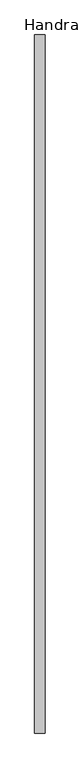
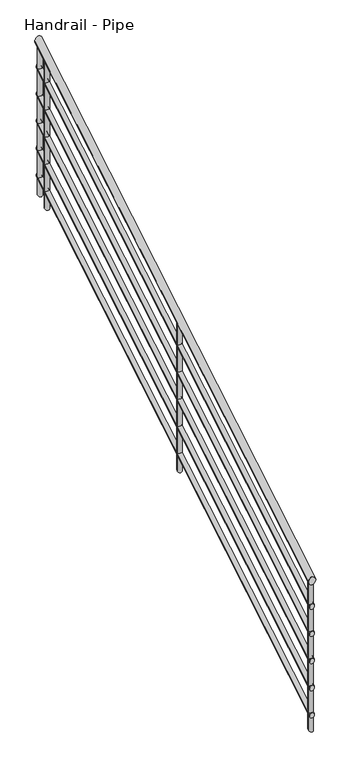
"""IFC4 building model written with IfcOpenShell, lengths in millimetres: railing geometry, Handrail - Pipe."""

from ifc_helpers import new_model, si_unit, frame, origin, place, context, project, spatial, ellipse_curve, source, transform, mapped, element, save
from ifc_brep_helpers import plane_surface, cylinder_surface, advanced_brep


def handrail_pipe_723eb138(model_context):
    return source(origin(), model_context, "Body", "AdvancedBrep", [
        advanced_brep(
        [(-6413.7286726, -8786.6671527, -464.1759267), (-6375.6286726, -8786.6671527, -464.1759267), (-6413.7286726, -6272.0671527, 1044.5840733), (-6375.6286726, -6272.0671527, 1044.5840733)],
        [
            (0, 1, ellipse_curve(frame((-6394.6786726, -8786.6671527, -464.1759267), z_axis=(0.0, -1.0, 0.0), x_axis=(0.0, 0.0, -1.0)), 22.2159267, 19.05)),
            (1, 0, ellipse_curve(frame((-6394.6786726, -8786.6671527, -464.1759267), z_axis=(0.0, -1.0, 0.0), x_axis=(0.0, 0.0, -1.0)), 22.2159267, 19.05)),
            (2, 3, ellipse_curve(frame((-6394.6786726, -6272.0671527, 1044.5840733), z_axis=(0.0, 1.0, 0.0), x_axis=(0.0, 0.0, -1.0)), 22.2159267, 19.05)),
            (3, 2, ellipse_curve(frame((-6394.6786726, -6272.0671527, 1044.5840733), z_axis=(0.0, 1.0, 0.0), x_axis=(0.0, 0.0, -1.0)), 22.2159267, 19.05)),
            (0, 2),
            (3, 1),
        ],
        [
            plane_surface(frame((-6394.6786726, -8786.6671527, -441.96), z_axis=(0.0, -1.0, 0.0), x_axis=(0.0, 0.0, 1.0))),
            plane_surface(frame((-6394.6786726, -6272.0671527, 1066.8), z_axis=(0.0, 1.0, 0.0), x_axis=(0.0, 0.0, 1.0))),
            cylinder_surface(frame((-6394.6786726, -8776.8660086, -458.2952402), z_axis=(0.0, -0.8574929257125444, -0.5144957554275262), x_axis=(1.0, 0.0, 0.0)), 19.05),
        ],
        [
            (0, [[1, 2]]),
            (1, [[3, 4]]),
            (2, [[-1, 5, -4, 6]]),
            (2, [[-2, -6, -3, -5]]),
        ],
    ),
        advanced_brep(
        [(-6407.3786726, -8786.6671527, -609.1706178), (-6381.9786726, -8786.6671527, -609.1706178), (-6407.3786726, -6272.0671527, 899.5893822), (-6381.9786726, -6272.0671527, 899.5893822)],
        [
            (0, 1, ellipse_curve(frame((-6394.6786726, -8786.6671527, -609.1706178), z_axis=(0.0, -1.0, 0.0), x_axis=(0.0, 0.0, -1.0)), 14.8106178, 12.7)),
            (1, 0, ellipse_curve(frame((-6394.6786726, -8786.6671527, -609.1706178), z_axis=(0.0, -1.0, 0.0), x_axis=(0.0, 0.0, -1.0)), 14.8106178, 12.7)),
            (2, 3, ellipse_curve(frame((-6394.6786726, -6272.0671527, 899.5893822), z_axis=(0.0, 1.0, 0.0), x_axis=(0.0, 0.0, -1.0)), 14.8106178, 12.7)),
            (3, 2, ellipse_curve(frame((-6394.6786726, -6272.0671527, 899.5893822), z_axis=(0.0, 1.0, 0.0), x_axis=(0.0, 0.0, -1.0)), 14.8106178, 12.7)),
            (0, 2),
            (3, 1),
        ],
        [
            plane_surface(frame((-6394.6786726, -8786.6671527, -594.36), z_axis=(0.0, -1.0, 0.0), x_axis=(0.0, 0.0, 1.0))),
            plane_surface(frame((-6394.6786726, -6272.0671527, 914.4), z_axis=(0.0, 1.0, 0.0), x_axis=(0.0, 0.0, 1.0))),
            cylinder_surface(frame((-6394.6786726, -8780.1330567, -605.2501602), z_axis=(0.0, -0.8574929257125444, -0.5144957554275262), x_axis=(1.0, 0.0, 0.0)), 12.7),
        ],
        [
            (0, [[1, 2]]),
            (1, [[3, 4]]),
            (2, [[-1, 5, -4, 6]]),
            (2, [[-2, -6, -3, -5]]),
        ],
    ),
        advanced_brep(
        [(-6407.3786726, -8786.6671527, -761.5706178), (-6381.9786726, -8786.6671527, -761.5706178), (-6407.3786726, -6272.0671527, 747.1893822), (-6381.9786726, -6272.0671527, 747.1893822)],
        [
            (0, 1, ellipse_curve(frame((-6394.6786726, -8786.6671527, -761.5706178), z_axis=(0.0, -1.0, 0.0), x_axis=(0.0, 0.0, -1.0)), 14.8106178, 12.7)),
            (1, 0, ellipse_curve(frame((-6394.6786726, -8786.6671527, -761.5706178), z_axis=(0.0, -1.0, 0.0), x_axis=(0.0, 0.0, -1.0)), 14.8106178, 12.7)),
            (2, 3, ellipse_curve(frame((-6394.6786726, -6272.0671527, 747.1893822), z_axis=(0.0, 1.0, 0.0), x_axis=(0.0, 0.0, -1.0)), 14.8106178, 12.7)),
            (3, 2, ellipse_curve(frame((-6394.6786726, -6272.0671527, 747.1893822), z_axis=(0.0, 1.0, 0.0), x_axis=(0.0, 0.0, -1.0)), 14.8106178, 12.7)),
            (0, 2),
            (3, 1),
        ],
        [
            plane_surface(frame((-6394.6786726, -8786.6671527, -746.76), z_axis=(0.0, -1.0, 0.0), x_axis=(0.0, 0.0, 1.0))),
            plane_surface(frame((-6394.6786726, -6272.0671527, 762.0), z_axis=(0.0, 1.0, 0.0), x_axis=(0.0, 0.0, 1.0))),
            cylinder_surface(frame((-6394.6786726, -8780.1330567, -757.6501602), z_axis=(0.0, -0.8574929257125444, -0.5144957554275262), x_axis=(1.0, 0.0, 0.0)), 12.7),
        ],
        [
            (0, [[1, 2]]),
            (1, [[3, 4]]),
            (2, [[-1, 5, -4, 6]]),
            (2, [[-2, -6, -3, -5]]),
        ],
    ),
        advanced_brep(
        [(-6407.3786726, -8786.6671527, -913.9706178), (-6381.9786726, -8786.6671527, -913.9706178), (-6407.3786726, -6272.0671527, 594.7893822), (-6381.9786726, -6272.0671527, 594.7893822)],
        [
            (0, 1, ellipse_curve(frame((-6394.6786726, -8786.6671527, -913.9706178), z_axis=(0.0, -1.0, 0.0), x_axis=(0.0, 0.0, -1.0)), 14.8106178, 12.7)),
            (1, 0, ellipse_curve(frame((-6394.6786726, -8786.6671527, -913.9706178), z_axis=(0.0, -1.0, 0.0), x_axis=(0.0, 0.0, -1.0)), 14.8106178, 12.7)),
            (2, 3, ellipse_curve(frame((-6394.6786726, -6272.0671527, 594.7893822), z_axis=(0.0, 1.0, 0.0), x_axis=(0.0, 0.0, -1.0)), 14.8106178, 12.7)),
            (3, 2, ellipse_curve(frame((-6394.6786726, -6272.0671527, 594.7893822), z_axis=(0.0, 1.0, 0.0), x_axis=(0.0, 0.0, -1.0)), 14.8106178, 12.7)),
            (0, 2),
            (3, 1),
        ],
        [
            plane_surface(frame((-6394.6786726, -8786.6671527, -899.16), z_axis=(0.0, -1.0, 0.0), x_axis=(0.0, 0.0, 1.0))),
            plane_surface(frame((-6394.6786726, -6272.0671527, 609.6), z_axis=(0.0, 1.0, 0.0), x_axis=(0.0, 0.0, 1.0))),
            cylinder_surface(frame((-6394.6786726, -8780.1330567, -910.0501602), z_axis=(0.0, -0.8574929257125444, -0.5144957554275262), x_axis=(1.0, 0.0, 0.0)), 12.7),
        ],
        [
            (0, [[1, 2]]),
            (1, [[3, 4]]),
            (2, [[-1, 5, -4, 6]]),
            (2, [[-2, -6, -3, -5]]),
        ],
    ),
        advanced_brep(
        [(-6407.3786726, -8786.6671527, -1066.3706178), (-6381.9786726, -8786.6671527, -1066.3706178), (-6407.3786726, -6272.0671527, 442.3893822), (-6381.9786726, -6272.0671527, 442.3893822)],
        [
            (0, 1, ellipse_curve(frame((-6394.6786726, -8786.6671527, -1066.3706178), z_axis=(0.0, -1.0, 0.0), x_axis=(0.0, 0.0, -1.0)), 14.8106178, 12.7)),
            (1, 0, ellipse_curve(frame((-6394.6786726, -8786.6671527, -1066.3706178), z_axis=(0.0, -1.0, 0.0), x_axis=(0.0, 0.0, -1.0)), 14.8106178, 12.7)),
            (2, 3, ellipse_curve(frame((-6394.6786726, -6272.0671527, 442.3893822), z_axis=(0.0, 1.0, 0.0), x_axis=(0.0, 0.0, -1.0)), 14.8106178, 12.7)),
            (3, 2, ellipse_curve(frame((-6394.6786726, -6272.0671527, 442.3893822), z_axis=(0.0, 1.0, 0.0), x_axis=(0.0, 0.0, -1.0)), 14.8106178, 12.7)),
            (0, 2),
            (3, 1),
        ],
        [
            plane_surface(frame((-6394.6786726, -8786.6671527, -1051.56), z_axis=(0.0, -1.0, 0.0), x_axis=(0.0, 0.0, 1.0))),
            plane_surface(frame((-6394.6786726, -6272.0671527, 457.2), z_axis=(0.0, 1.0, 0.0), x_axis=(0.0, 0.0, 1.0))),
            cylinder_surface(frame((-6394.6786726, -8780.1330567, -1062.4501602), z_axis=(0.0, -0.8574929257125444, -0.5144957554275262), x_axis=(1.0, 0.0, 0.0)), 12.7),
        ],
        [
            (0, [[1, 2]]),
            (1, [[3, 4]]),
            (2, [[-1, 5, -4, 6]]),
            (2, [[-2, -6, -3, -5]]),
        ],
    ),
        advanced_brep(
        [(-6407.3786726, -8786.6671527, -1218.7706178), (-6381.9786726, -8786.6671527, -1218.7706178), (-6407.3786726, -6272.0671527, 289.9893822), (-6381.9786726, -6272.0671527, 289.9893822)],
        [
            (0, 1, ellipse_curve(frame((-6394.6786726, -8786.6671527, -1218.7706178), z_axis=(0.0, -1.0, 0.0), x_axis=(0.0, 0.0, -1.0)), 14.8106178, 12.7)),
            (1, 0, ellipse_curve(frame((-6394.6786726, -8786.6671527, -1218.7706178), z_axis=(0.0, -1.0, 0.0), x_axis=(0.0, 0.0, -1.0)), 14.8106178, 12.7)),
            (2, 3, ellipse_curve(frame((-6394.6786726, -6272.0671527, 289.9893822), z_axis=(0.0, 1.0, 0.0), x_axis=(0.0, 0.0, -1.0)), 14.8106178, 12.7)),
            (3, 2, ellipse_curve(frame((-6394.6786726, -6272.0671527, 289.9893822), z_axis=(0.0, 1.0, 0.0), x_axis=(0.0, 0.0, -1.0)), 14.8106178, 12.7)),
            (0, 2),
            (3, 1),
        ],
        [
            plane_surface(frame((-6394.6786726, -8786.6671527, -1203.96), z_axis=(0.0, -1.0, 0.0), x_axis=(0.0, 0.0, 1.0))),
            plane_surface(frame((-6394.6786726, -6272.0671527, 304.8), z_axis=(0.0, 1.0, 0.0), x_axis=(0.0, 0.0, 1.0))),
            cylinder_surface(frame((-6394.6786726, -8780.1330567, -1214.8501602), z_axis=(0.0, -0.8574929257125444, -0.5144957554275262), x_axis=(1.0, 0.0, 0.0)), 12.7),
        ],
        [
            (0, [[1, 2]]),
            (1, [[3, 4]]),
            (2, [[-1, 5, -4, 6]]),
            (2, [[-2, -6, -3, -5]]),
        ],
    ),
        advanced_brep(
        [(-6381.9786726, -6348.2671527, 976.6481466), (-6381.9786726, -6348.2671527, 150.5917384), (-6407.3786726, -6348.2671527, 150.5917384), (-6407.3786726, -6348.2671527, 976.6481466)],
        [
            (0, 1),
            (1, 2, ellipse_curve(frame((-6394.6786726, -6348.2671527, 150.5917384), z_axis=(0.0, -0.5144957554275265, 0.8574929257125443), x_axis=(0.0, 0.8574929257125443, 0.514495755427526)), 14.8106178, 12.7)),
            (2, 3),
            (3, 0, ellipse_curve(frame((-6394.6786726, -6348.2671527, 976.6481466), z_axis=(0.0, 0.5144957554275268, -0.8574929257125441), x_axis=(0.0, 0.8574929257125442, 0.5144957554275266)), 14.8106178, 12.7)),
            (0, 3, ellipse_curve(frame((-6394.6786726, -6348.2671527, 976.6481466), z_axis=(0.0, 0.5144957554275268, -0.8574929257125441), x_axis=(0.0, 0.8574929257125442, 0.5144957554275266)), 14.8106178, 12.7)),
            (2, 1, ellipse_curve(frame((-6394.6786726, -6348.2671527, 150.5917384), z_axis=(0.0, -0.5144957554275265, 0.8574929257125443), x_axis=(0.0, 0.8574929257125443, 0.514495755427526)), 14.8106178, 12.7)),
        ],
        [
            cylinder_surface(frame((-6394.6786726, -6348.2671527, -78.0082616), z_axis=(0.0, 0.0, 1.0), x_axis=(-1.0, 0.0, 0.0)), 12.7),
            plane_surface(frame((-6420.0786726, -6322.8671527, 991.8881466), z_axis=(0.0, -0.5144957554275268, 0.8574929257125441), x_axis=(1.0, 0.0, 0.0))),
            plane_surface(frame((-6420.0786726, -6373.6671527, 135.3517384), z_axis=(0.0, 0.5144957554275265, -0.8574929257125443), x_axis=(1.0, 0.0, 0.0))),
        ],
        [
            (0, [[1, 2, 3, 4]]),
            (0, [[-1, 5, -3, 6]]),
            (1, [[-4, -5]]),
            (2, [[-2, -6]]),
        ],
    ),
        advanced_brep(
        [(-6381.9786726, -7567.4671527, 245.1281466), (-6381.9786726, -7567.4671527, -580.9282616), (-6407.3786726, -7567.4671527, -580.9282616), (-6407.3786726, -7567.4671527, 245.1281466)],
        [
            (0, 1),
            (1, 2, ellipse_curve(frame((-6394.6786726, -7567.4671527, -580.9282616), z_axis=(0.0, -0.5144957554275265, 0.8574929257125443), x_axis=(0.0, 0.8574929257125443, 0.514495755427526)), 14.8106178, 12.7)),
            (2, 3),
            (3, 0, ellipse_curve(frame((-6394.6786726, -7567.4671527, 245.1281466), z_axis=(0.0, 0.5144957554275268, -0.8574929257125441), x_axis=(0.0, 0.8574929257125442, 0.5144957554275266)), 14.8106178, 12.7)),
            (0, 3, ellipse_curve(frame((-6394.6786726, -7567.4671527, 245.1281466), z_axis=(0.0, 0.5144957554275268, -0.8574929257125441), x_axis=(0.0, 0.8574929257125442, 0.5144957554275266)), 14.8106178, 12.7)),
            (2, 1, ellipse_curve(frame((-6394.6786726, -7567.4671527, -580.9282616), z_axis=(0.0, -0.5144957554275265, 0.8574929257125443), x_axis=(0.0, 0.8574929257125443, 0.514495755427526)), 14.8106178, 12.7)),
        ],
        [
            cylinder_surface(frame((-6394.6786726, -7567.4671527, -809.5282616), z_axis=(0.0, 0.0, 1.0), x_axis=(-1.0, 0.0, 0.0)), 12.7),
            plane_surface(frame((-6420.0786726, -7542.0671527, 260.3681466), z_axis=(0.0, -0.5144957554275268, 0.8574929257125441), x_axis=(1.0, 0.0, 0.0))),
            plane_surface(frame((-6420.0786726, -7592.8671527, -596.1682616), z_axis=(0.0, 0.5144957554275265, -0.8574929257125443), x_axis=(1.0, 0.0, 0.0))),
        ],
        [
            (0, [[1, 2, 3, 4]]),
            (0, [[-1, 5, -3, 6]]),
            (1, [[-4, -5]]),
            (2, [[-2, -6]]),
        ],
    ),
        advanced_brep(
        [(-6381.9786726, -6284.7671527, 1014.7481466), (-6381.9786726, -6284.7671527, 188.6917384), (-6407.3786726, -6284.7671527, 188.6917384), (-6407.3786726, -6284.7671527, 1014.7481466)],
        [
            (0, 1),
            (1, 2, ellipse_curve(frame((-6394.6786726, -6284.7671527, 188.6917384), z_axis=(0.0, -0.5144957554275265, 0.8574929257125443), x_axis=(0.0, 0.8574929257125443, 0.514495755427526)), 14.8106178, 12.7)),
            (2, 3),
            (3, 0, ellipse_curve(frame((-6394.6786726, -6284.7671527, 1014.7481466), z_axis=(0.0, 0.5144957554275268, -0.8574929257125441), x_axis=(0.0, 0.8574929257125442, 0.5144957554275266)), 14.8106178, 12.7)),
            (0, 3, ellipse_curve(frame((-6394.6786726, -6284.7671527, 1014.7481466), z_axis=(0.0, 0.5144957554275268, -0.8574929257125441), x_axis=(0.0, 0.8574929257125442, 0.5144957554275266)), 14.8106178, 12.7)),
            (2, 1, ellipse_curve(frame((-6394.6786726, -6284.7671527, 188.6917384), z_axis=(0.0, -0.5144957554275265, 0.8574929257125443), x_axis=(0.0, 0.8574929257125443, 0.514495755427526)), 14.8106178, 12.7)),
        ],
        [
            cylinder_surface(frame((-6394.6786726, -6284.7671527, -39.9082616), z_axis=(0.0, 0.0, 1.0), x_axis=(-1.0, 0.0, 0.0)), 12.7),
            plane_surface(frame((-6420.0786726, -6259.3671527, 1029.9881466), z_axis=(0.0, -0.5144957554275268, 0.8574929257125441), x_axis=(1.0, 0.0, 0.0))),
            plane_surface(frame((-6420.0786726, -6310.1671527, 173.4517384), z_axis=(0.0, 0.5144957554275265, -0.8574929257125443), x_axis=(1.0, 0.0, 0.0))),
        ],
        [
            (0, [[1, 2, 3, 4]]),
            (0, [[-1, 5, -3, 6]]),
            (1, [[-4, -5]]),
            (2, [[-2, -6]]),
        ],
    ),
        advanced_brep(
        [(-6381.9786726, -8773.9671527, -478.7718534), (-6381.9786726, -8773.9671527, -1304.8282616), (-6407.3786726, -8773.9671527, -1304.8282616), (-6407.3786726, -8773.9671527, -478.7718534)],
        [
            (0, 1),
            (1, 2, ellipse_curve(frame((-6394.6786726, -8773.9671527, -1304.8282616), z_axis=(0.0, -0.5144957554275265, 0.8574929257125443), x_axis=(0.0, 0.8574929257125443, 0.514495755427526)), 14.8106178, 12.7)),
            (2, 3),
            (3, 0, ellipse_curve(frame((-6394.6786726, -8773.9671527, -478.7718534), z_axis=(0.0, 0.5144957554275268, -0.8574929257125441), x_axis=(0.0, 0.8574929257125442, 0.5144957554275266)), 14.8106178, 12.7)),
            (0, 3, ellipse_curve(frame((-6394.6786726, -8773.9671527, -478.7718534), z_axis=(0.0, 0.5144957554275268, -0.8574929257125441), x_axis=(0.0, 0.8574929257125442, 0.5144957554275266)), 14.8106178, 12.7)),
            (2, 1, ellipse_curve(frame((-6394.6786726, -8773.9671527, -1304.8282616), z_axis=(0.0, -0.5144957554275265, 0.8574929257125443), x_axis=(0.0, 0.8574929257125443, 0.514495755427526)), 14.8106178, 12.7)),
        ],
        [
            cylinder_surface(frame((-6394.6786726, -8773.9671527, -1533.4282616), z_axis=(0.0, 0.0, 1.0), x_axis=(-1.0, 0.0, 0.0)), 12.7),
            plane_surface(frame((-6420.0786726, -8748.5671527, -463.5318534), z_axis=(0.0, -0.5144957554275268, 0.8574929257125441), x_axis=(1.0, 0.0, 0.0))),
            plane_surface(frame((-6420.0786726, -8799.3671527, -1320.0682616), z_axis=(0.0, 0.5144957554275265, -0.8574929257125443), x_axis=(1.0, 0.0, 0.0))),
        ],
        [
            (0, [[1, 2, 3, 4]]),
            (0, [[-1, 5, -3, 6]]),
            (1, [[-4, -5]]),
            (2, [[-2, -6]]),
        ],
    ),
    ])


if __name__ == "__main__":
    model = new_model("IFC4")
    model_context = context("Model", 3, world=origin())
    ifc_project = project(units=[si_unit("LENGTHUNIT", "METRE", prefix="MILLI")], contexts=[model_context])
    site = spatial("IfcSite", under=ifc_project)
    building = spatial("IfcBuilding", under=site)
    placement = place(None, origin())
    handrail_pipe_shape = handrail_pipe_723eb138(model_context)
    element("IfcRailing", 1, ObjectType="Handrail - Pipe", at=placement, inside=building, context=model_context, shape_type="MappedRepresentation", body=[
        mapped(handrail_pipe_shape, transform((0.0, 0.0, 0.0), x_axis=(1.0, 0.0, 0.0), y_axis=(0.0, 1.0, 0.0), z_axis=(0.0, 0.0, 1.0))),
    ])
    save(model, "model.ifc")
